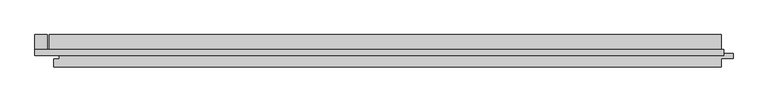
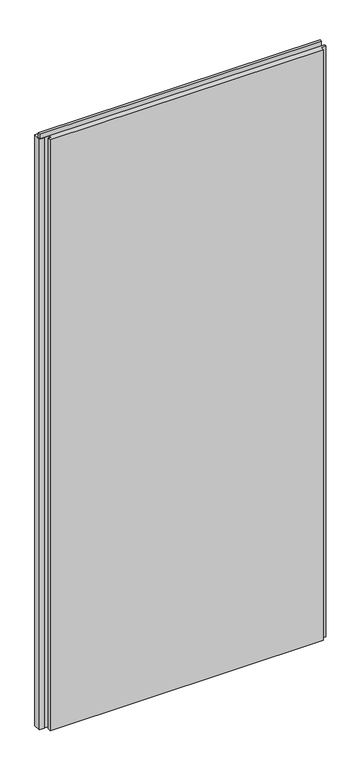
"""IFC4 building model written with IfcOpenShell, lengths in millimetres: plate geometry, Trimo_Qbiss Screen_Normal Panel-VERTICAL : HR - FB."""

import ifcopenshell
import ifcopenshell.guid

model = None  # the IFC model being written
_history = None  # IfcOwnerHistory: only IFC2X3 demands one
_inside = {}  # id of a spatial element -> (the spatial element, [elements in it])
_under = {}  # id of a project, library or spatial element -> (it, [spatial elements below it])
_declared = {}  # id of a project -> (the project, [libraries it declares])
_typed = {}  # id of a type object -> (the type object, [elements of that type])
_made_of = {}  # id of a material, layer set ... -> (it, [elements and type objects made of it])


def new_model(schema):
    """Start an empty IFC model of exactly this schema.

    Asked for "IFC4X3", IfcOpenShell would pick the latest addendum, in which some entities
    have other attributes; the version numbers below select the first issue.
    IFC2X3 requires an IfcOwnerHistory on every rooted entity: one is made here for all.
    """
    global model, _history
    if schema == "IFC4X3":
        model = ifcopenshell.file(schema_version=(4, 3, 0, 0))
    else:
        model = ifcopenshell.file(schema=schema)
    _inside.clear()
    _under.clear()
    _declared.clear()
    _typed.clear()
    _made_of.clear()
    _history = None
    if model.schema == "IFC2X3":
        org = make("IfcOrganization", Name="unknown")
        user = make(
            "IfcPersonAndOrganization",
            ThePerson=make("IfcPerson", FamilyName="unknown"),
            TheOrganization=org,
        )
        app = make(
            "IfcApplication",
            ApplicationDeveloper=org,
            Version="unknown",
            ApplicationFullName="unknown",
            ApplicationIdentifier="unknown",
        )
        _history = make(
            "IfcOwnerHistory",
            OwningUser=user,
            OwningApplication=app,
            ChangeAction="ADDED",
            CreationDate=0,
        )
    return model


def make(cls, **values):
    """One entity of the class cls with the attributes given. An attribute that is None is left unset."""
    return model.create_entity(
        cls, **{name: value for name, value in values.items() if value is not None}
    )


def rooted(cls, **values):
    """An entity with a GlobalId (a new one), such as an element, a storey or a relation."""
    return make(cls, GlobalId=ifcopenshell.guid.new(), OwnerHistory=_history, **values)


def si_unit(unit_type, name, prefix=None):
    """IfcSIUnit, for example si_unit("LENGTHUNIT", "METRE", prefix="MILLI")."""
    return make("IfcSIUnit", UnitType=unit_type, Prefix=prefix, Name=name)


def assignment(units):
    """IfcUnitAssignment: the units of a project."""
    return None if units is None else make("IfcUnitAssignment", Units=units)


def point(xyz):
    """IfcCartesianPoint."""
    return None if xyz is None else make("IfcCartesianPoint", Coordinates=xyz)


def direction(xyz):
    """IfcDirection."""
    return None if xyz is None else make("IfcDirection", DirectionRatios=xyz)


def frame(location, z_axis=None, x_axis=None):
    """IfcAxis2Placement3D, a coordinate frame: its origin and axes. An axis left out is left unset."""
    return make(
        "IfcAxis2Placement3D",
        Location=point(location),
        Axis=direction(z_axis),
        RefDirection=direction(x_axis),
    )


def origin():
    """The frame at (0, 0, 0) with its axes left unset."""
    return frame((0.0, 0.0, 0.0))


def place(relative_to, where):
    """IfcLocalPlacement: puts the frame where relative to a parent placement (None: the world)."""
    return make(
        "IfcLocalPlacement", PlacementRelTo=relative_to, RelativePlacement=where
    )


def context(
    kind, dimensions, precision=None, world=None, true_north=None, identifier=None
):
    """IfcGeometricRepresentationContext, for example the 3D "Model" context."""
    return make(
        "IfcGeometricRepresentationContext",
        ContextIdentifier=identifier,
        ContextType=kind,
        CoordinateSpaceDimension=dimensions,
        Precision=precision,
        WorldCoordinateSystem=world,
        TrueNorth=true_north,
    )


def project(units=None, contexts=None):
    """IfcProject with its units and contexts."""
    return rooted(
        "IfcProject",
        Name="project",
        RepresentationContexts=contexts,
        UnitsInContext=assignment(units),
    )


def spatial(cls, under=None, at=None, **own):
    """A site, building, storey or space (cls), placed at a placement, below another one or the project."""
    s = rooted(cls, ObjectPlacement=at, **own)
    if under is not None:
        _under.setdefault(under.id(), (under, []))[1].append(s)
    return s


def polyline(points):
    """IfcPolyline through the points."""
    return make("IfcPolyline", Points=[point(p) for p in points])


def outline(outer, holes=None, kind="AREA"):
    """IfcArbitraryClosedProfileDef: a profile drawn as a closed curve; with holes, ...WithVoids."""
    if holes is None:
        return make("IfcArbitraryClosedProfileDef", ProfileType=kind, OuterCurve=outer)
    return make(
        "IfcArbitraryProfileDefWithVoids",
        ProfileType=kind,
        OuterCurve=outer,
        InnerCurves=holes,
    )


def extrude(swept, where, along, depth):
    """IfcExtrudedAreaSolid: the profile swept, set in the frame where, extruded along a direction by depth."""
    return make(
        "IfcExtrudedAreaSolid",
        SweptArea=swept,
        Position=where,
        ExtrudedDirection=direction(along),
        Depth=depth,
    )


def shape(context_of_items, identifier, shape_type, items):
    """IfcShapeRepresentation: the items that make up one representation, for example the "Body"."""
    return make(
        "IfcShapeRepresentation",
        ContextOfItems=context_of_items,
        RepresentationIdentifier=identifier,
        RepresentationType=shape_type,
        Items=items,
    )


def source(mapping_origin, context_of_items, identifier, shape_type, items):
    """IfcRepresentationMap: a shape defined once, which mapped items show again and again."""
    return make(
        "IfcRepresentationMap",
        MappingOrigin=mapping_origin,
        MappedRepresentation=shape(context_of_items, identifier, shape_type, items),
    )


def transform(
    local_origin,
    x_axis=None,
    y_axis=None,
    z_axis=None,
    scale=None,
    scale2=None,
    scale3=None,
    uniform=True,
):
    """IfcCartesianTransformationOperator3D, or its non-uniform kind. x_axis, y_axis, z_axis: its Axis1, 2, 3."""
    if uniform:
        return make(
            "IfcCartesianTransformationOperator3D",
            Axis1=direction(x_axis),
            Axis2=direction(y_axis),
            LocalOrigin=point(local_origin),
            Scale=scale,
            Axis3=direction(z_axis),
        )
    return make(
        "IfcCartesianTransformationOperator3DnonUniform",
        Axis1=direction(x_axis),
        Axis2=direction(y_axis),
        LocalOrigin=point(local_origin),
        Scale=scale,
        Axis3=direction(z_axis),
        Scale2=scale2,
        Scale3=scale3,
    )


def mapped(mapping_source, mapping_target):
    """IfcMappedItem: shows the shape of a source again, moved by a transform."""
    return make(
        "IfcMappedItem", MappingSource=mapping_source, MappingTarget=mapping_target
    )


def made_of(thing, what):
    """Note that an element or type object is made of a material, layer set ...; save() writes the relation."""
    if what is not None:
        _made_of.setdefault(what.id(), (what, []))[1].append(thing)
    return thing


def element(
    cls,
    number,
    at=None,
    inside=None,
    cuts=None,
    type_object=None,
    material=None,
    context=None,
    identifier="Body",
    shape_type=None,
    held_by="IfcProductDefinitionShape",
    body=None,
    shapes=None,
    **own,
):
    """One element of the class cls, such as IfcWall. Its Tag is "e" and its number.

    at: its placement. inside: the storey or other place that contains it. cuts: it is an
    opening in that element (IfcRelVoidsElement). A single representation is given by context,
    identifier, shape_type and body (its items); several are given by shapes. held_by: the class
    of the entity that holds the representations. save() writes the other relations.
    """
    e = rooted(cls, Tag="e%d" % number, ObjectPlacement=at, **own)
    if body is not None:
        shapes = [shape(context, identifier, shape_type, body)]
    if shapes is not None:
        e.Representation = make(held_by, Representations=shapes)
    if inside is not None:
        _inside.setdefault(inside.id(), (inside, []))[1].append(e)
    if cuts is not None:
        rooted(
            "IfcRelVoidsElement", RelatingBuildingElement=cuts, RelatedOpeningElement=e
        )
    if type_object is not None:
        _typed.setdefault(type_object.id(), (type_object, []))[1].append(e)
    return made_of(e, material)


def aggregate(whole, parts):
    """IfcRelAggregates: a whole, such as a stair, and the parts it consists of."""
    return rooted("IfcRelAggregates", RelatingObject=whole, RelatedObjects=parts)


def save(model, path):
    """Write the relations noted so far, then the file.

    IfcRelAggregates (storeys below a building ...), IfcRelContainedInSpatialStructure (elements
    in a storey), IfcRelDefinesByType, IfcRelAssociatesMaterial and IfcRelDeclares: one each for
    every whole, place, type object, material and project.
    """
    for whole, parts in _under.values():
        aggregate(whole, parts)
    for where, things in _inside.values():
        rooted(
            "IfcRelContainedInSpatialStructure",
            RelatedElements=things,
            RelatingStructure=where,
        )
    for kind, things in _typed.values():
        rooted("IfcRelDefinesByType", RelatedObjects=things, RelatingType=kind)
    for what, things in _made_of.values():
        rooted("IfcRelAssociatesMaterial", RelatedObjects=things, RelatingMaterial=what)
    for by, libraries in _declared.values():
        rooted("IfcRelDeclares", RelatingContext=by, RelatedDefinitions=libraries)
    model.write(path)


def plate_33d7b416(model_context):
    return source(origin(), model_context, "Body", "SweptSolid", [
        extrude(outline(polyline([(-571.0, 97.0), (-571.0, 126.0), (-552.0, 126.0), (-552.0, 97.0), (-571.0, 97.0)])), frame((0.0, 0.0, 12.5), z_axis=(0.0, 0.0, 1.0), x_axis=(1.0, 0.0, 0.0)), (0.0, 0.0, 1.0), 2375.0),
        extrude(outline(polyline([(-571.0, 93.9), (-571.0, 102.6), (500.0, 102.6), (500.0, 93.9), (-571.0, 93.9)])), frame((0.0, 0.0, 2390.5), z_axis=(0.0, 0.0, 1.0), x_axis=(1.0, 0.0, 0.0)), (0.0, 0.0, 1.0), 19.0),
        extrude(outline(polyline([(496.0, 97.0), (514.5, 97.0), (514.5, 89.0), (496.0, 89.0), (496.0, 76.0), (-542.0, 76.0), (-542.0, 88.0), (-533.5, 88.0), (-533.5, 98.0), (-549.0, 98.0), (-549.0, 126.0), (496.0, 126.0), (496.0, 97.0)])), frame((0.0, 0.0, 12.5), z_axis=(0.0, 0.0, 1.0), x_axis=(1.0, 0.0, 0.0)), (0.0, 0.0, 1.0), 2375.0),
    ])


if __name__ == "__main__":
    model = new_model("IFC4")
    model_context = context("Model", 3, world=origin())
    ifc_project = project(units=[si_unit("LENGTHUNIT", "METRE", prefix="MILLI")], contexts=[model_context])
    site = spatial("IfcSite", under=ifc_project)
    building = spatial("IfcBuilding", under=site)
    placement = place(None, origin())
    plate_shape = plate_33d7b416(model_context)
    element("IfcPlate", 1, ObjectType="Trimo_Qbiss Screen_Normal Panel-VERTICAL : HR - FB", at=placement, inside=building, context=model_context, shape_type="MappedRepresentation", body=[
        mapped(plate_shape, transform((0.0, 0.0, 0.0), x_axis=(1.0, 0.0, 0.0), y_axis=(0.0, 1.0, 0.0), z_axis=(0.0, 0.0, 1.0))),
    ])
    save(model, "model.ifc")
